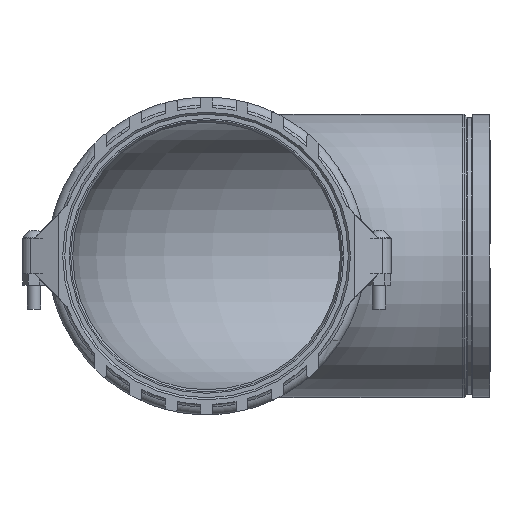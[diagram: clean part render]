
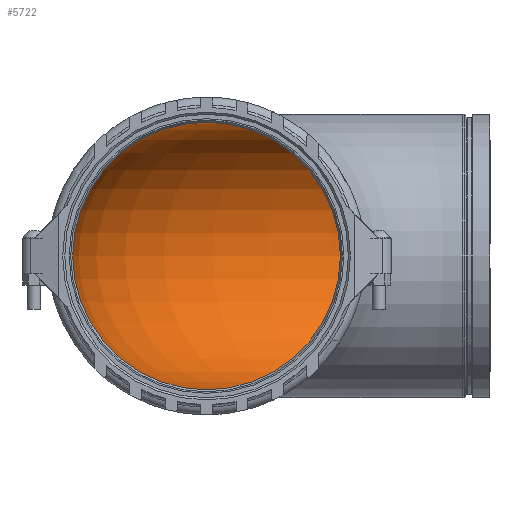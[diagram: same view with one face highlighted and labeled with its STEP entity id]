
A CAD part, left-side view. The second image highlights one B-rep face of the part: STEP entity #5722.
In plain terms, the highlighted toroidal (fillet/blend) face has major radius 551.18 mm and minor radius 287.782 mm.
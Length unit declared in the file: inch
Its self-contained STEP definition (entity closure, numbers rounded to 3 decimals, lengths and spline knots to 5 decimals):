
#284=TOROIDAL_SURFACE('',#6400,21.7,11.33);
#1304=FACE_OUTER_BOUND('',#1609,.T.);
#1609=EDGE_LOOP('',(#4927,#4928,#4929,#4930,#4931));
#1919=CIRCLE('',#6401,11.33);
#1920=CIRCLE('',#6402,10.37);
#1921=CIRCLE('',#6403,11.33);
#1922=CIRCLE('',#6404,11.33);
#2498=VERTEX_POINT('',#12118);
#2499=VERTEX_POINT('',#12120);
#2500=VERTEX_POINT('',#12122);
#3318=EDGE_CURVE('',#2498,#2498,#1919,.T.);
#3319=EDGE_CURVE('',#2498,#2499,#1920,.T.);
#3320=EDGE_CURVE('',#2499,#2500,#1921,.T.);
#3321=EDGE_CURVE('',#2500,#2499,#1922,.T.);
#4927=ORIENTED_EDGE('',*,*,#3318,.F.);
#4928=ORIENTED_EDGE('',*,*,#3319,.T.);
#4929=ORIENTED_EDGE('',*,*,#3320,.T.);
#4930=ORIENTED_EDGE('',*,*,#3321,.T.);
#4931=ORIENTED_EDGE('',*,*,#3319,.F.);
#5722=ADVANCED_FACE('',(#1304),#284,.F.);
#6400=AXIS2_PLACEMENT_3D('',#12117,#7885,#7886);
#6401=AXIS2_PLACEMENT_3D('',#12119,#7887,#7888);
#6402=AXIS2_PLACEMENT_3D('',#12121,#7889,#7890);
#6403=AXIS2_PLACEMENT_3D('',#12123,#7891,#7892);
#6404=AXIS2_PLACEMENT_3D('',#12124,#7893,#7894);
#7885=DIRECTION('center_axis',(0.,0.,-1.));
#7886=DIRECTION('ref_axis',(-1.,0.,0.));
#7887=DIRECTION('center_axis',(0.,1.,0.));
#7888=DIRECTION('ref_axis',(-1.,0.,0.));
#7889=DIRECTION('center_axis',(0.,0.,-1.));
#7890=DIRECTION('ref_axis',(-1.,0.,0.));
#7891=DIRECTION('center_axis',(1.,0.,0.));
#7892=DIRECTION('ref_axis',(0.,1.,0.));
#7893=DIRECTION('center_axis',(1.,0.,0.));
#7894=DIRECTION('ref_axis',(0.,1.,0.));
#12117=CARTESIAN_POINT('Origin',(21.7,-21.7,0.));
#12118=CARTESIAN_POINT('',(11.33,-21.7,0.));
#12119=CARTESIAN_POINT('Origin',(0.,-21.7,0.));
#12120=CARTESIAN_POINT('',(21.7,-11.33,0.));
#12121=CARTESIAN_POINT('Origin',(21.7,-21.7,0.));
#12122=CARTESIAN_POINT('',(21.7,0.,11.33));
#12123=CARTESIAN_POINT('Origin',(21.7,0.,0.));
#12124=CARTESIAN_POINT('Origin',(21.7,0.,0.));
